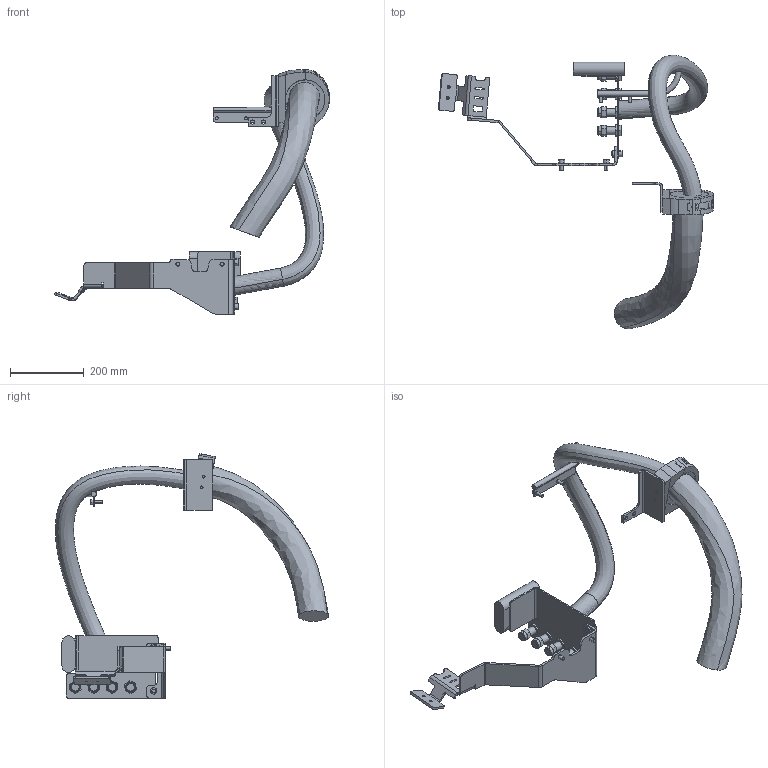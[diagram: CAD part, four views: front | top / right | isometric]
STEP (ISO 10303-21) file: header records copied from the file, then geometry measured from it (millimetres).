
FILE_DESCRIPTION (( 'STEP AP214' ), '1' );
FILE_NAME ('IRB6720-LID-SW_140kg-320_OC_00_LINK03a_CABLE.step', '2026-06-10T12:08:11', ( '' ), ( '' ), 'SwSTEP 2.0', 'SolidWorks 2024', '' );
FILE_SCHEMA (( 'AUTOMOTIVE_DESIGN' ));
Length unit declared in the file: millimetre
Products named in the file (1): IRB6720-LID-SW_140kg-320_OC_00_LINK03a_CABLE
Bounding box: 747.03 x 742.3 x 663.9 mm (x, y, z)
Volume: 6787054.3 mm3; surface area: 683674 mm2
Topology: 1 solids, 5 shells, 581 faces, 1412 edges, 898 vertices
Faces by surface type: plane 343, cylinder 194, cone 24, torus 10, bspline 10
Entity records: 52778 total; most frequent: CARTESIAN_POINT 38901, DIRECTION 2942, ORIENTED_EDGE 2824, EDGE_CURVE 1412, AXIS2_PLACEMENT_3D 1035, VERTEX_POINT 898, VECTOR 872, LINE 872
